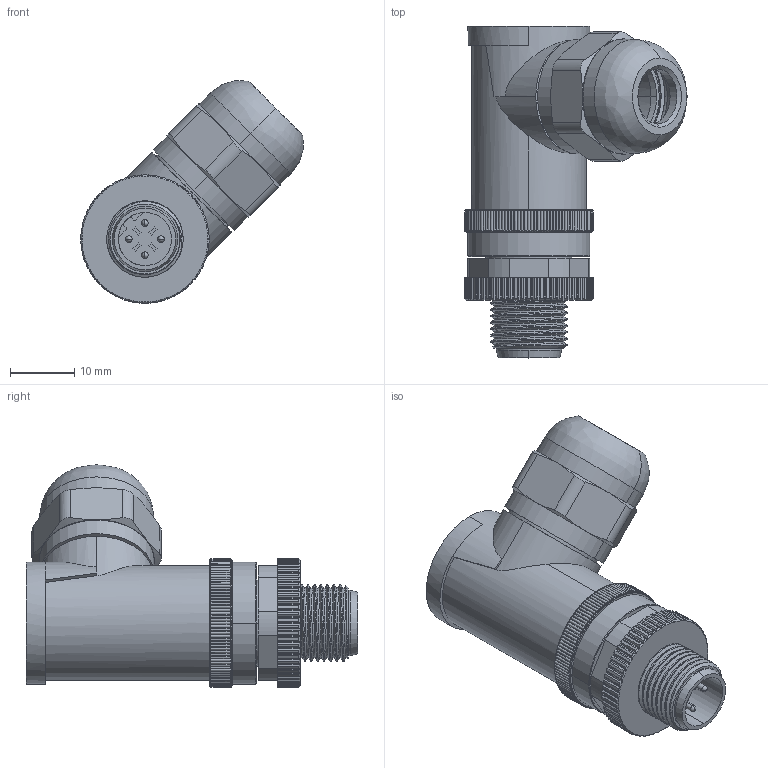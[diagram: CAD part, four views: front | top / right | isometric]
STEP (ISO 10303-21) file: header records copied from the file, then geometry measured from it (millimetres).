
FILE_DESCRIPTION((''),'2;1');
FILE_NAME('XC-M12P-RWK-PG9','2025-06-23T14:56:07',('lyj'),(''),'CREO PARAMETRIC BY PTC INC, 2019010','CREO PARAMETRIC BY PTC INC, 2019010','');
FILE_SCHEMA(('CONFIG_CONTROL_DESIGN'));
Length unit declared in the file: millimetre
Products named in the file (1): XC-M12P-RWK-PG9
Bounding box: 34.66 x 51.7 x 34.66 mm (x, y, z)
Volume: 10152.8 mm3; surface area: 13869.1 mm2
Topology: 1 solids, 13 shells, 1638 faces, 4305 edges, 2733 vertices
Faces by surface type: cylinder 794, cone 369, plane 364, bspline 51, extrusion 28, torus 24, sphere 8
Entity records: 80425 total; most frequent: CARTESIAN_POINT 41764, ORIENTED_EDGE 8594, DIRECTION 7444, EDGE_CURVE 4297, AXIS2_PLACEMENT_3D 2962, VERTEX_POINT 2733, EDGE_LOOP 1722, FACE_OUTER_BOUND 1638
